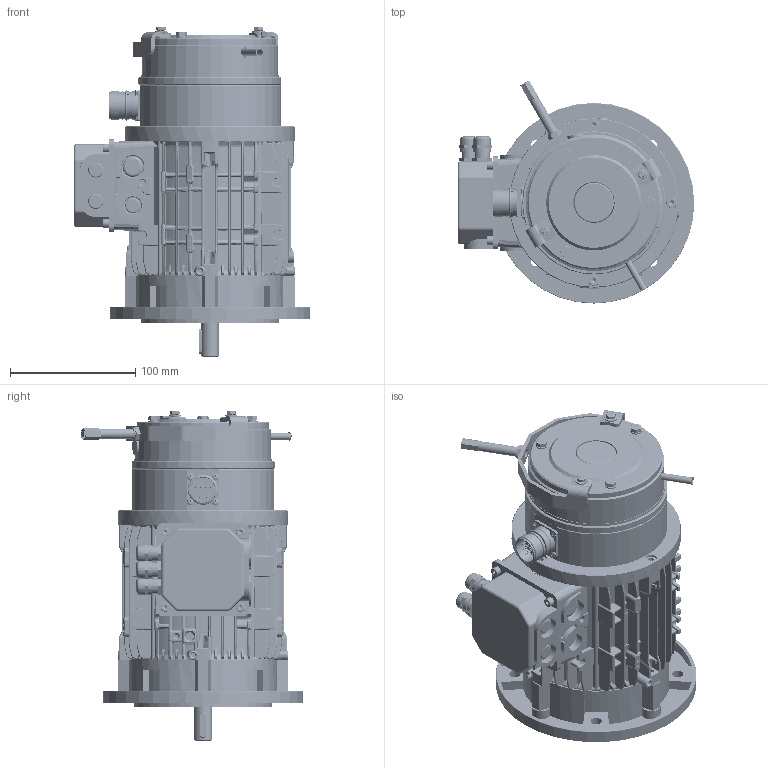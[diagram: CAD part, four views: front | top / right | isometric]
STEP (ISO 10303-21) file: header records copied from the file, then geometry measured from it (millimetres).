
FILE_DESCRIPTION(/* description */ (''),/* implementation_level */ '2;1');
FILE_NAME(/* name */ 'Z:\UTM\Sito\PMAC\BL-B5.71-P10.stp',/* time_stamp */ '2023-05-08T08:25:49+02:00',/* author */ ('cad3'),/* organization */ (''),/* preprocessor_version */ 'ST-DEVELOPER v18.1',/* originating_system */ 'Autodesk Inventor 2022',/* authorisation */ '');
FILE_SCHEMA (('AUTOMOTIVE_DESIGN { 1 0 10303 214 3 1 1 }'));
Products named in the file (1): BL-B5.71-P10
Bounding box: 188.5 x 177.55 x 263.2 mm (x, y, z)
Volume: 938941 mm3; surface area: 466799 mm2
Topology: 53 solids, 78 shells, 8295 faces, 20295 edges, 12143 vertices
Faces by surface type: plane 2819, bspline 2595, cylinder 1658, cone 569, sphere 383, torus 271
Full cylindrical faces by diameter (mm): 0.9 x12, 2 x9, 2.9 x8, 3 x7, 3.15 x1, 3.2 x12, 3.242 x12, 4 x8, 4.134 x13, 4.2 x2, 4.3 x10, 4.5 x7, 5 x22, 5.2 x21, 5.4 x4, 5.5 x9, 6 x1, 6.4 x1, 6.88 x3, 6.917 x3, 7 x7, 7.1 x1, 7.5 x3, 7.8 x1, 8 x2, 8.4 x1, 8.5 x15, 9 x20, 10 x5, 10.5 x4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
Entity records: 360806 total; most frequent: CARTESIAN_POINT 168492, ORIENTED_EDGE 40472, DIRECTION 36715, EDGE_CURVE 20236, AXIS2_PLACEMENT_3D 14569, VERTEX_POINT 12237, EDGE_LOOP 8835, STYLED_ITEM 8348
